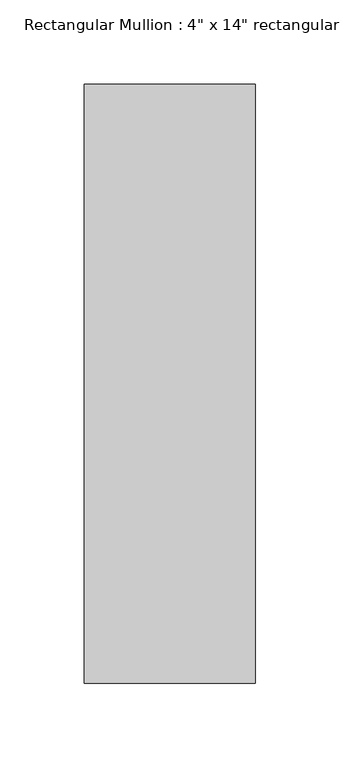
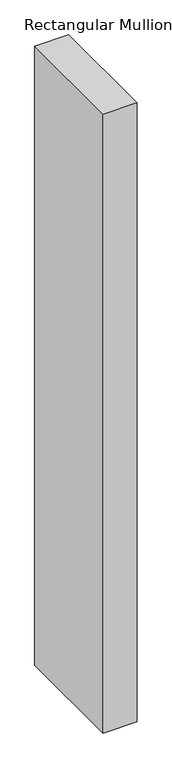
"""IFC4 building model written with IfcOpenShell, lengths in millimetres: member geometry."""

from ifc_helpers import new_model, si_unit, frame, origin, place, context, project, spatial, polyline, outline, extrude, source, transform, mapped, element, save


def member_c7baeb7b(model_context):
    return source(origin(), model_context, "Body", "SweptSolid", [
        extrude(outline(polyline([(50.8, 12.7), (50.8, -342.9), (-50.8, -342.9), (-50.8, 12.7), (50.8, 12.7)])), frame((0.0, 0.0, -1960.5571609), z_axis=(0.0, 0.0, 1.0), x_axis=(1.0, 0.0, 0.0)), (0.0, 0.0, 1.0), 1960.5571609),
    ])


if __name__ == "__main__":
    model = new_model("IFC4")
    model_context = context("Model", 3, world=origin())
    ifc_project = project(units=[si_unit("LENGTHUNIT", "METRE", prefix="MILLI")], contexts=[model_context])
    site = spatial("IfcSite", under=ifc_project)
    building = spatial("IfcBuilding", under=site)
    placement = place(None, origin())
    member_shape = member_c7baeb7b(model_context)
    element("IfcMember", 1, ObjectType="Rectangular Mullion : 4\" x 14\" rectangular", at=placement, inside=building, context=model_context, shape_type="MappedRepresentation", body=[
        mapped(member_shape, transform((0.0, 0.0, 0.0), x_axis=(1.0, 0.0, 0.0), y_axis=(0.0, 1.0, 0.0), z_axis=(0.0, 0.0, 1.0))),
    ])
    save(model, "model.ifc")
